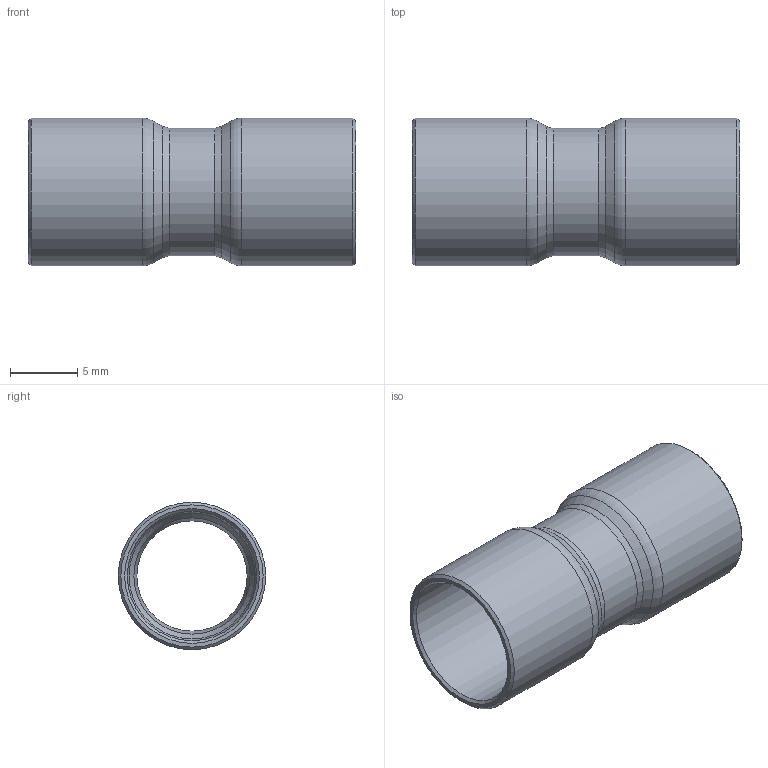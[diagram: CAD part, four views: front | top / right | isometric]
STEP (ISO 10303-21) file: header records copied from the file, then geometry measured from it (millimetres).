
FILE_DESCRIPTION((''),'2;1');
FILE_NAME('G:\SANHA-Ternat\Technik\Management\Bouwmaten + markeringen\z-maattekeningen 3D\29000s\2927038_3d.stp','2017-08-03T13:46:49',('vdvijverd'),(''),'Autodesk Inventor 2009','Autodesk Inventor 2009','');
FILE_SCHEMA(('AUTOMOTIVE_DESIGN { 1 0 10303 214 1 1 1 1 }'));
Length unit declared in the file: millimetre
Products named in the file (1): 2927038_3d
Bounding box: 24.4 x 11 x 11 mm (x, y, z)
Volume: 518 mm3; surface area: 1581.8 mm2
Topology: 1 solids, 1 shells, 24 faces, 46 edges, 24 vertices
Faces by surface type: cone 8, cylinder 6, torus 4, bspline 4, plane 2
Full cylindrical faces by diameter (mm): 8.22 x1, 9.52 x1, 9.645 x2, 11 x2
Entity records: 674 total; most frequent: CARTESIAN_POINT 249, DIRECTION 90, ORIENTED_EDGE 48, EDGE_LOOP 48, AXIS2_PLACEMENT_3D 45, VERTEX_POINT 24, CIRCLE 24, EDGE_CURVE 24
